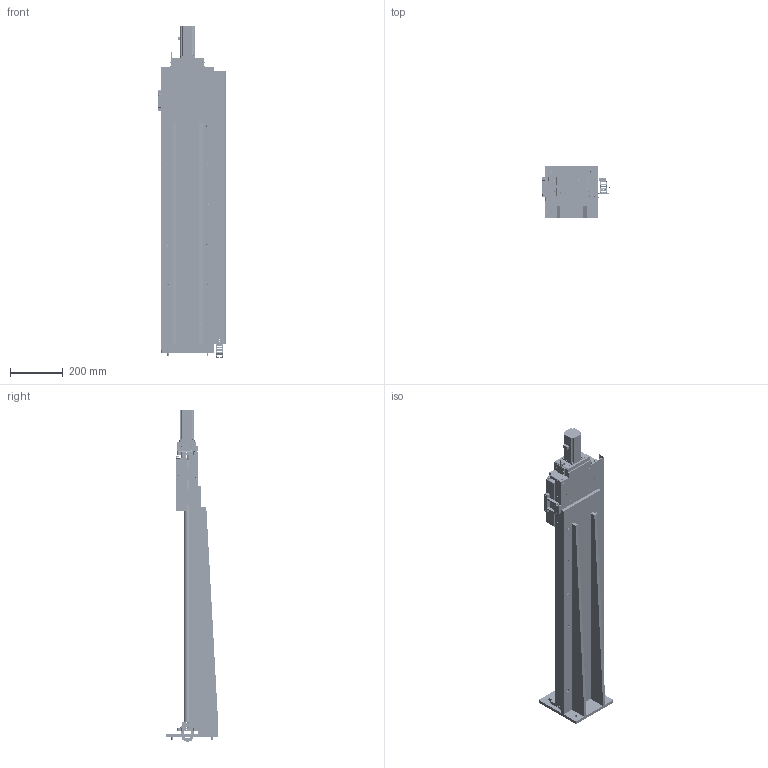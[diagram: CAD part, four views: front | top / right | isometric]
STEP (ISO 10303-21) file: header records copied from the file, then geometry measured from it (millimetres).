
FILE_DESCRIPTION (( 'STEP AP203' ), '1' );
FILE_NAME ('KA800-Z(AP203).STEP', '2022-11-30T03:19:15', ( '' ), ( '' ), 'SwSTEP 2.0', 'SolidWorks 2017', '' );
FILE_SCHEMA (( 'CONFIG_CONTROL_DESIGN' ));
Products named in the file (1): KA800-Z(AP203)
Bounding box: 257.87 x 200 x 1254.63 mm (x, y, z)
Surface area: 1904909.6 mm2 (no closed solid volume)
Topology: 0 solids, 457 shells, 3139 faces, 14465 edges, 11576 vertices
Faces by surface type: plane 1724, cylinder 1197, torus 130, cone 54, sphere 32, bspline 2
Entity records: 151743 total; most frequent: CARTESIAN_POINT 33859, DIRECTION 25377, ORIENTED_EDGE 19697, EDGE_CURVE 14435, VERTEX_POINT 11576, LINE 9129, VECTOR 9129, AXIS2_PLACEMENT_3D 8124
